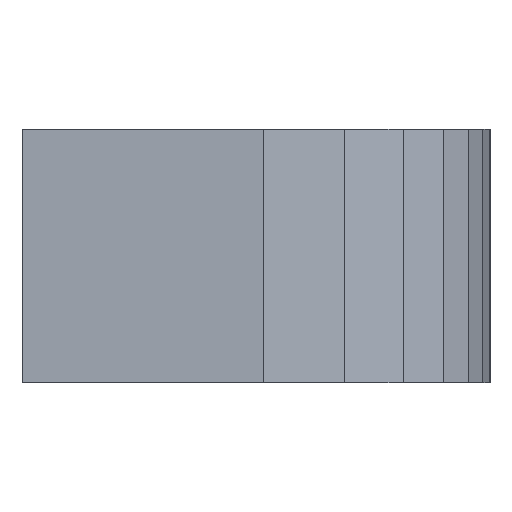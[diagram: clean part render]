
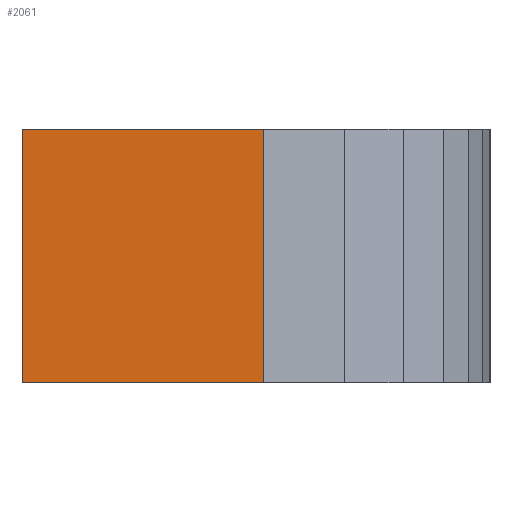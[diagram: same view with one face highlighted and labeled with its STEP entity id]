
A CAD part, front view. The second image highlights one B-rep face of the part: STEP entity #2061.
In plain terms, the highlighted planar face has unit normal (0, -1, 0).
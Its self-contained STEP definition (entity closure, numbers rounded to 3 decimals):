
#21 = ORIENTED_EDGE ( 'NONE', *, *, #164, .F. ) ;
#49 = EDGE_CURVE ( 'NONE', #634, #751, #1570, .T. ) ;
#131 = CARTESIAN_POINT ( 'NONE',  ( 9.525, 0., -10. ) ) ;
#164 = EDGE_CURVE ( 'NONE', #232, #793, #1371, .T. ) ;
#174 = DIRECTION ( 'NONE',  ( 0., 0., -1. ) ) ;
#180 = CARTESIAN_POINT ( 'NONE',  ( 0., 0., 0. ) ) ;
#231 = AXIS2_PLACEMENT_3D ( 'NONE', #1622, #2071, #174 ) ;
#232 = VERTEX_POINT ( 'NONE', #582 ) ;
#244 = ORIENTED_EDGE ( 'NONE', *, *, #49, .T. ) ;
#249 = VECTOR ( 'NONE', #1000, 1000. ) ;
#286 = EDGE_CURVE ( 'NONE', #793, #751, #1775, .T. ) ;
#359 = VECTOR ( 'NONE', #970, 1000. ) ;
#479 = CARTESIAN_POINT ( 'NONE',  ( 0., 0., -10. ) ) ;
#582 = CARTESIAN_POINT ( 'NONE',  ( 0., 0., -10. ) ) ;
#634 = VERTEX_POINT ( 'NONE', #778 ) ;
#751 = VERTEX_POINT ( 'NONE', #1143 ) ;
#778 = CARTESIAN_POINT ( 'NONE',  ( 9.525, 0., -10. ) ) ;
#793 = VERTEX_POINT ( 'NONE', #180 ) ;
#951 = EDGE_LOOP ( 'NONE', ( #1771, #21, #1952, #244 ) ) ;
#970 = DIRECTION ( 'NONE',  ( 1., 0., 0. ) ) ;
#974 = FACE_OUTER_BOUND ( 'NONE', #951, .T. ) ;
#1000 = DIRECTION ( 'NONE',  ( 0., 0., 1. ) ) ;
#1090 = VECTOR ( 'NONE', #1615, 1000. ) ;
#1143 = CARTESIAN_POINT ( 'NONE',  ( 9.525, 0., 0. ) ) ;
#1303 = DIRECTION ( 'NONE',  ( 0., 0., 1. ) ) ;
#1371 = LINE ( 'NONE', #2023, #249 ) ;
#1435 = PLANE ( 'NONE',  #231 ) ;
#1570 = LINE ( 'NONE', #131, #1810 ) ;
#1615 = DIRECTION ( 'NONE',  ( 1., 0., 0. ) ) ;
#1622 = CARTESIAN_POINT ( 'NONE',  ( 0., 0., -10. ) ) ;
#1642 = EDGE_CURVE ( 'NONE', #232, #634, #1929, .T. ) ;
#1771 = ORIENTED_EDGE ( 'NONE', *, *, #286, .F. ) ;
#1775 = LINE ( 'NONE', #1935, #1090 ) ;
#1810 = VECTOR ( 'NONE', #1303, 1000. ) ;
#1929 = LINE ( 'NONE', #479, #359 ) ;
#1935 = CARTESIAN_POINT ( 'NONE',  ( 0., 0., 0. ) ) ;
#1952 = ORIENTED_EDGE ( 'NONE', *, *, #1642, .T. ) ;
#2023 = CARTESIAN_POINT ( 'NONE',  ( 0., 0., -10. ) ) ;
#2061 = ADVANCED_FACE ( 'NONE', ( #974 ), #1435, .T. ) ;
#2071 = DIRECTION ( 'NONE',  ( 0., -1., 0. ) ) ;
